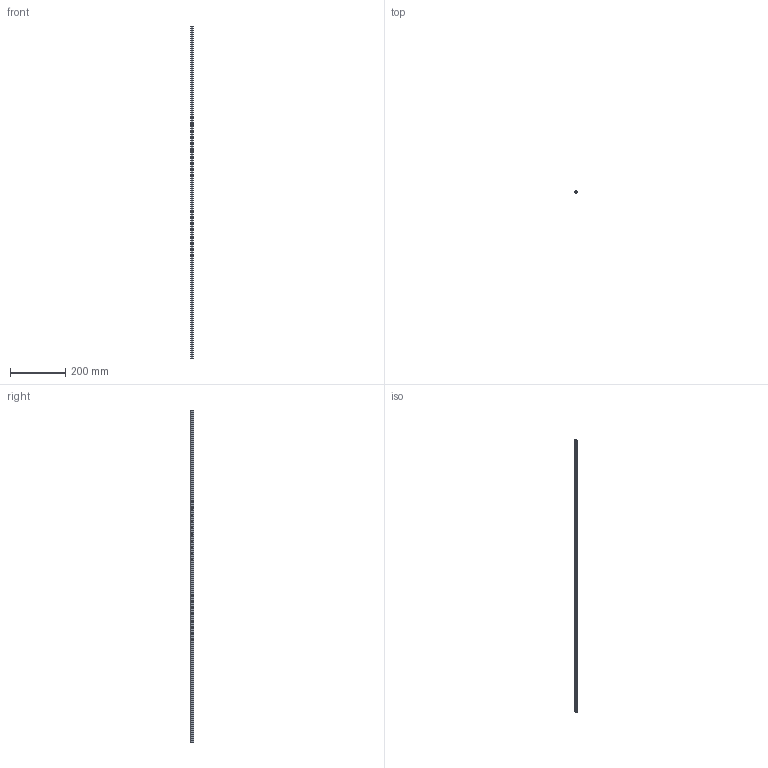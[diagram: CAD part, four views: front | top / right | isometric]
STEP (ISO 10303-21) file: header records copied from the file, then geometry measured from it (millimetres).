
FILE_DESCRIPTION (( 'STEP AP214' ), '1' );
FILE_NAME ('StrongLine alu profil 1030 spodní 92118.STEP', '2025-03-11T14:54:33', ( '' ), ( '' ), 'SwSTEP 2.0', 'SolidWorks 2019', '' );
FILE_SCHEMA (( 'AUTOMOTIVE_DESIGN' ));
Length unit declared in the file: millimetre
Products named in the file (2): StrongLine alu profil 1030 spodní 92118
Bounding box: 8.45 x 12 x 1200 mm (x, y, z)
Volume: 53722 mm3; surface area: 46956.3 mm2
Topology: 1 solids, 1 shells, 26 faces, 72 edges, 48 vertices
Faces by surface type: plane 20, cylinder 6
Entity records: 877 total; most frequent: CARTESIAN_POINT 148, ORIENTED_EDGE 144, DIRECTION 140, EDGE_CURVE 72, VECTOR 60, LINE 60, VERTEX_POINT 48, AXIS2_PLACEMENT_3D 40
